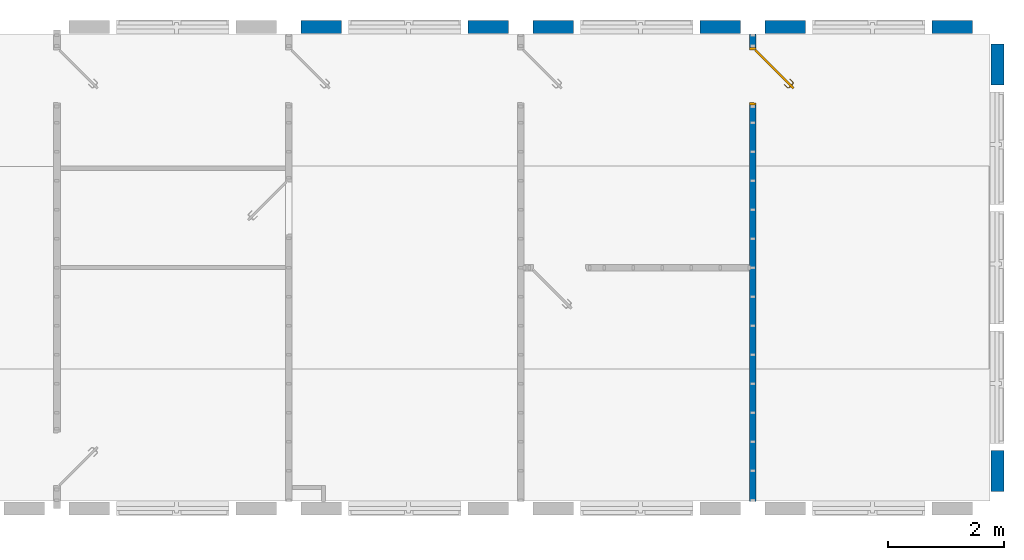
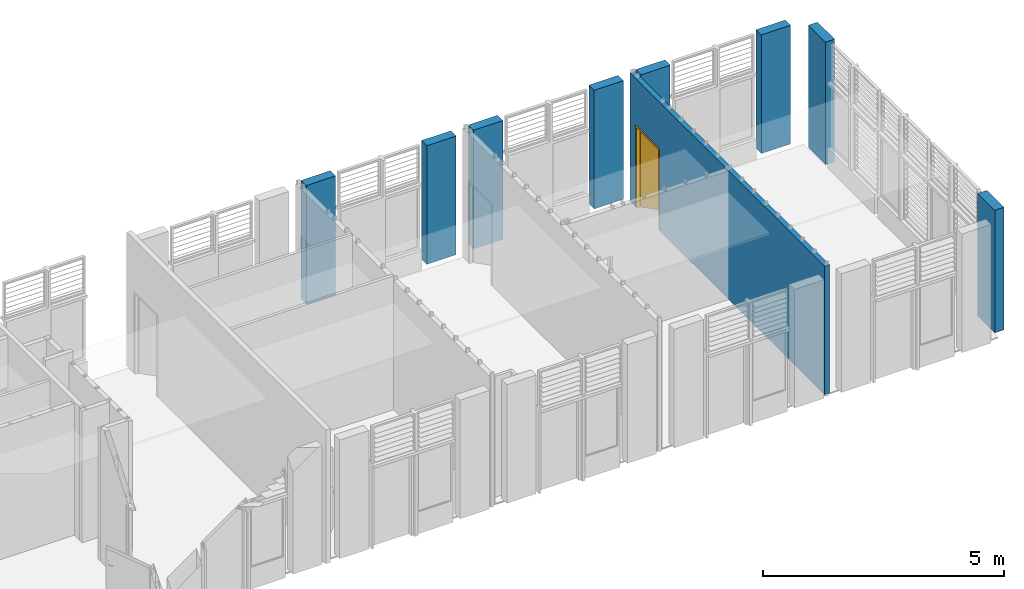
# One storey, part 13 of 20: 9 walls, 1 door, 1 opening.
"""IFC2X3 building model written with IfcOpenShell, lengths in metres."""

from ifc_helpers import new_model, entity, si_unit, converted_unit, derived_unit, direction, frame, frame_2d, origin, place, context, subcontext, project, spatial, rectangle, extrude, faceted_brep, source, transform, mapped, material, layer, layer_set, layer_usage, type_object, type_shapes, element, fill, save


model = new_model("IFC2X3")

# Units and contexts
model_context = context("Model", 3, precision=1e-05, world=origin(), true_north=direction((6.12303176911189e-17, 1.0)))
body_context = subcontext(model_context, "Body", "Model", "MODEL_VIEW")
ifc_project = project(units=[si_unit("LENGTHUNIT", "METRE"), si_unit("AREAUNIT", "SQUARE_METRE"), si_unit("VOLUMEUNIT", "CUBIC_METRE"), converted_unit("PLANEANGLEUNIT", "DEGREE", entity("IfcRatioMeasure", 0.0174532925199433), si_unit("PLANEANGLEUNIT", "RADIAN"), dimensions=[0, 0, 0, 0, 0, 0, 0]), si_unit("MASSUNIT", "GRAM", prefix="KILO"), derived_unit("MASSDENSITYUNIT", [(si_unit("MASSUNIT", "GRAM", prefix="KILO"), 1), (si_unit("LENGTHUNIT", "METRE"), -3)]), si_unit("TIMEUNIT", "SECOND"), si_unit("FREQUENCYUNIT", "HERTZ"), si_unit("THERMODYNAMICTEMPERATUREUNIT", "DEGREE_CELSIUS"), derived_unit("THERMALTRANSMITTANCEUNIT", [(si_unit("MASSUNIT", "GRAM", prefix="KILO"), 1), (si_unit("THERMODYNAMICTEMPERATUREUNIT", "KELVIN"), -1), (si_unit("TIMEUNIT", "SECOND"), -3)]), derived_unit("VOLUMETRICFLOWRATEUNIT", [(si_unit("LENGTHUNIT", "METRE"), 3), (si_unit("TIMEUNIT", "SECOND"), -1)]), si_unit("ELECTRICCURRENTUNIT", "AMPERE"), si_unit("ELECTRICVOLTAGEUNIT", "VOLT"), si_unit("POWERUNIT", "WATT"), si_unit("FORCEUNIT", "NEWTON", prefix="KILO"), si_unit("ILLUMINANCEUNIT", "LUX"), si_unit("LUMINOUSFLUXUNIT", "LUMEN"), si_unit("LUMINOUSINTENSITYUNIT", "CANDELA"), derived_unit("USERDEFINED", [(si_unit("MASSUNIT", "GRAM", prefix="KILO"), -1), (si_unit("LENGTHUNIT", "METRE"), -2), (si_unit("TIMEUNIT", "SECOND"), 3), (si_unit("LUMINOUSFLUXUNIT", "LUMEN"), 1)]), derived_unit("LINEARVELOCITYUNIT", [(si_unit("LENGTHUNIT", "METRE"), 1), (si_unit("TIMEUNIT", "SECOND"), -1)]), si_unit("PRESSUREUNIT", "PASCAL"), derived_unit("USERDEFINED", [(si_unit("LENGTHUNIT", "METRE"), -2), (si_unit("MASSUNIT", "GRAM", prefix="KILO"), 1), (si_unit("TIMEUNIT", "SECOND"), -2)])], contexts=[model_context])

# Site, building, storey
site_placement = place(None, origin())
site = spatial("IfcSite", under=ifc_project, at=site_placement, Name="Surface", CompositionType="ELEMENT")
building_placement = place(site_placement, origin())
building = spatial("IfcBuilding", under=site, at=building_placement, Name="ExPREF", CompositionType="ELEMENT")
storey_placement = place(building_placement, frame((0.0, 0.0, 4.27)))
storey = spatial("IfcBuildingStorey", under=building, at=storey_placement, Name="R+1", CompositionType="ELEMENT", Elevation=4.27)

# Wall, opening, door
ifc_material_1 = material(Name="AA-mur cloison finition")
ifc_layer_1 = layer(ifc_material_1, 0.018)
ifc_material_2 = material(Name="AA-isolant plancher")
ifc_layer_2 = layer(ifc_material_2, 0.08)
ifc_layer_3 = layer(ifc_material_1, 0.018)
ifc_layer_set_1 = layer_set([ifc_layer_1, ifc_layer_2, ifc_layer_3], Name="Mur de base:A-cloison CP 11.6 cm")
ifc_layer_usage_1 = layer_usage(ifc_layer_set_1, "AXIS2", "NEGATIVE", 0.058)
wall_type_1 = type_object("IfcWallType", Name="Mur de base:A-cloison CP 11.6 cm", PredefinedType="STANDARD", material=ifc_layer_set_1)
wall_1_placement = place(storey_placement, frame((65.4897436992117, -185.17648794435, 0.0), z_axis=(0.0, 0.0, 1.0), x_axis=(0.0, -1.0, 0.0)))
wall_1 = element("IfcWallStandardCase", 1, at=wall_1_placement, inside=storey, type_object=wall_type_1, material=ifc_layer_usage_1, Name="Mur de base:A-cloison CP 11.6 cm", ObjectType="Mur de base:A-cloison CP 11.6 cm", context=body_context, shape_type="SweptSolid", body=[
    extrude(rectangle(XDim=8.06316335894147, YDim=0.116000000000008, at=frame_2d((4.03158167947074, 1.98105420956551e-15), x_axis=(-1.0, 0.0))), origin(), (0.0, 0.0, 1.0), 3.24999999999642),
])
opening_placement = place(wall_1_placement, frame((0.230000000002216, -0.0580000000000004, 0.0)))
opening = element("IfcOpeningElement", 2, at=opening_placement, cuts=wall_1, Name="Porte intérieur bois:PP (0.93m x 2.04m):1", ObjectType="Opening", context=body_context, shape_type="SweptSolid", body=[
    extrude(rectangle(XDim=2.075, YDim=1.0, at=frame_2d((1.0375, 0.5), x_axis=(1.0, 0.0))), frame((0.0, 0.0, 0.0), z_axis=(0.0, 1.0, 0.0), x_axis=(0.0, 0.0, 1.0)), (0.0, 0.0, 1.0), 0.116),
])
ifc_material_3 = material(Name="AA-Blanc satiné")
door_style = type_object("IfcDoorStyle", Name="PP (0.93m x 2.04m)", ConstructionType="NOTDEFINED", OperationType="SINGLE_SWING_LEFT", ParameterTakesPrecedence=False, Sizeable=False, material=ifc_material_3)
shared_shape = source(origin(), body_context, "Body", "Brep", [
    faceted_brep([(0.316565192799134, -0.584795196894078, 1.00778044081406), (0.313754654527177, -0.587605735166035, 1.007), (0.31375465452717, -0.587605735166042, 0.992999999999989), (0.316565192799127, -0.584795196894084, 0.99221955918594), (0.319429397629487, -0.581930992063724, 0.992219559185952), (0.32223993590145, -0.579120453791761, 0.993000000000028), (0.322239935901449, -0.579120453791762, 1.007), (0.319429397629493, -0.581930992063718, 1.00778044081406), (0.306340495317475, -0.563221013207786, 0.993000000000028), (0.306340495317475, -0.563221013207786, 1.007), (0.302365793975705, -0.56486738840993, 1.00778044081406), (0.302365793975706, -0.545331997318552, 1.00778044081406), (0.298315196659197, -0.543654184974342, 1.00778044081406), (0.298315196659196, -0.56654520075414, 1.00778044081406), (0.294340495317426, -0.568191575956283, 1.007), (0.294340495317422, -0.568191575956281, 0.992999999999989), (0.298315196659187, -0.566545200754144, 0.99221955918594), (0.298315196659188, -0.543654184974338, 0.99221955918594), (0.302365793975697, -0.545331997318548, 0.992219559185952), (0.302365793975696, -0.564867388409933, 0.992219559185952), (0.306340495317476, -0.546978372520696, 0.993000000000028), (0.306340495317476, -0.546978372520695, 1.007), (0.294340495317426, -0.542007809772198, 1.007), (0.294340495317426, -0.542007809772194, 0.992999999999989), (0.36471958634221, -0.488599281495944, 0.993000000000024), (0.361909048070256, -0.485788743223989, 0.992219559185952), (0.359044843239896, -0.48292453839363, 0.99221955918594), (0.356234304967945, -0.480114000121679, 0.992999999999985), (0.356234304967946, -0.480114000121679, 1.007), (0.359044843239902, -0.482924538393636, 1.00778044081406), (0.361909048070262, -0.485788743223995, 1.00778044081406), (0.364719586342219, -0.488599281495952, 1.007), (0.335530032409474, -0.517788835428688, 0.993000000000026), (0.335530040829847, -0.517788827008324, 1.007), (0.330705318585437, -0.51412826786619, 1.0078786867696), (0.322575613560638, -0.513772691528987, 1.007), (0.322575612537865, -0.513772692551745, 0.992999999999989), (0.330705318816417, -0.514128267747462, 0.992121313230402)], [[[0, 1, 2, 3, 4, 5, 6, 7]], [[6, 5, 8, 9]], [[9, 10, 7, 6]], [[10, 11, 12, 13, 0, 7]], [[13, 14, 1, 0]], [[2, 1, 14, 15]], [[15, 16, 3, 2]], [[16, 17, 18, 19, 4, 3]], [[19, 8, 5, 4]], [[9, 8, 20, 21]], [[21, 11, 10, 9]], [[12, 22, 14, 13]], [[15, 14, 22, 23]], [[23, 17, 16, 15]], [[18, 20, 8, 19]], [[24, 25, 26, 27, 28, 29, 30, 31]], [[21, 20, 32, 24, 31, 33]], [[33, 30, 34]], [[35, 34, 29]], [[21, 33, 11]], [[33, 31, 30]], [[28, 35, 29]], [[22, 12, 35]], [[35, 12, 34]], [[12, 11, 34]], [[11, 33, 34]], [[29, 34, 30]], [[22, 35, 28, 27, 36, 23]], [[36, 26, 37]], [[27, 26, 36]], [[17, 23, 36]], [[37, 32, 18]], [[20, 18, 32]], [[32, 25, 24]], [[26, 25, 37]], [[25, 32, 37]], [[17, 36, 37]], [[17, 37, 18]]]),
    faceted_brep([(0.351920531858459, -0.620150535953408, 1.00778044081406), (0.354784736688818, -0.617286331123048, 1.00778044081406), (0.357595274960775, -0.614475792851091, 1.00699999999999), (0.357595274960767, -0.614475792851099, 0.993000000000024), (0.354784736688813, -0.617286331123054, 0.992219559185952), (0.351920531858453, -0.620150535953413, 0.99221955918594), (0.349109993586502, -0.622961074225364, 0.992999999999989), (0.349109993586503, -0.622961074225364, 1.007), (0.368662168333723, -0.642513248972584, 1.007), (0.370308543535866, -0.638538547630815, 1.00778044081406), (0.3930050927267, -0.638538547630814, 1.00778044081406), (0.391327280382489, -0.634487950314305, 1.00778044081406), (0.371986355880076, -0.634487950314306, 1.00778044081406), (0.373632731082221, -0.630513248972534, 1.007), (0.373632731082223, -0.630513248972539, 0.993000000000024), (0.371986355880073, -0.634487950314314, 0.992219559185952), (0.391327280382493, -0.634487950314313, 0.992219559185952), (0.393005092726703, -0.638538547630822, 0.99221955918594), (0.370308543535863, -0.638538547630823, 0.99221955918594), (0.368662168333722, -0.642513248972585, 0.992999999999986), (0.394651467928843, -0.642513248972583, 1.007), (0.389680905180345, -0.630513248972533, 1.007), (0.38968090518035, -0.630513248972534, 0.993000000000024), (0.394651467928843, -0.642513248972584, 0.992999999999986), (0.456623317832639, -0.580541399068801, 0.992999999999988), (0.453812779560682, -0.577730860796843, 0.99221955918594), (0.450948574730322, -0.574866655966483, 0.992219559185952), (0.448138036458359, -0.57205611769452, 0.993000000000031), (0.44813803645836, -0.572056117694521, 1.007), (0.450948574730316, -0.574866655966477, 1.00778044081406), (0.453812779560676, -0.577730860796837, 1.00778044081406), (0.456623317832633, -0.580541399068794, 1.00699999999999), (0.422886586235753, -0.614278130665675, 1.007), (0.422570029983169, -0.606109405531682, 1.0078786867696), (0.418909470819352, -0.601284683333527, 1.007), (0.418909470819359, -0.601284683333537, 0.993000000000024), (0.422570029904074, -0.606109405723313, 0.992121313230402), (0.422886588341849, -0.614278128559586, 0.992999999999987)], [[[0, 1, 2, 3, 4, 5, 6, 7]], [[8, 9, 0, 7]], [[9, 10, 11, 12, 1, 0]], [[12, 13, 2, 1]], [[3, 2, 13, 14]], [[14, 15, 4, 3]], [[15, 16, 17, 18, 5, 4]], [[18, 19, 6, 5]], [[7, 6, 19, 8]], [[20, 10, 9, 8]], [[11, 21, 13, 12]], [[14, 13, 21, 22]], [[22, 16, 15, 14]], [[17, 23, 19, 18]], [[8, 19, 23, 20]], [[24, 25, 26, 27, 28, 29, 30, 31]], [[32, 30, 33]], [[31, 30, 32]], [[10, 20, 32]], [[33, 34, 11]], [[21, 11, 34]], [[34, 29, 28]], [[30, 29, 33]], [[29, 34, 33]], [[10, 32, 33]], [[10, 33, 11]], [[22, 21, 34, 28, 27, 35]], [[35, 26, 36]], [[37, 36, 25]], [[22, 35, 16]], [[35, 27, 26]], [[24, 37, 25]], [[23, 17, 37]], [[37, 17, 36]], [[17, 16, 36]], [[16, 35, 36]], [[25, 36, 26]], [[20, 23, 37, 24, 31, 32]]]),
    faceted_brep([(0.328853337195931, -0.579578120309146, 0.866003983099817), (0.335674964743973, -0.572756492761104, 0.870000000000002), (0.335674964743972, -0.572756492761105, 1.08), (0.32885333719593, -0.579578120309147, 1.08399601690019), (0.321532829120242, -0.586898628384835, 1.08535898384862), (0.314212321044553, -0.594219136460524, 1.08399601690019), (0.307390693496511, -0.601040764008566, 1.08), (0.307390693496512, -0.601040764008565, 0.870000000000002), (0.314212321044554, -0.594219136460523, 0.866003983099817), (0.321532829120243, -0.586898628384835, 0.86464101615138), (0.325317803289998, -0.576042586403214, 1.08399601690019), (0.33213943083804, -0.569220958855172, 1.08), (0.332139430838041, -0.569220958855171, 0.870000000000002), (0.325317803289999, -0.576042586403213, 0.866003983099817), (0.31799729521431, -0.583363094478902, 0.86464101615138), (0.310676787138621, -0.59068360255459, 0.866003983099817), (0.303855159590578, -0.597505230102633, 0.870000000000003), (0.303855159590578, -0.597505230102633, 1.08), (0.31067678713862, -0.590683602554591, 1.08399601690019), (0.317997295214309, -0.583363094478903, 1.08535898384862)], [[[0, 1, 2, 3, 4, 5, 6, 7, 8, 9]], [[10, 11, 12, 13, 14, 15, 16, 17, 18, 19]], [[11, 10, 3, 2]], [[3, 10, 19, 4]], [[19, 18, 5, 4]], [[18, 17, 6, 5]], [[7, 6, 17, 16]], [[16, 15, 8, 7]], [[8, 15, 14, 9]], [[14, 13, 0, 9]], [[13, 12, 1, 0]], [[2, 1, 12, 11]]]),
    faceted_brep([(0.360673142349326, -0.61139792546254, 0.866003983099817), (0.367494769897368, -0.604576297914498, 0.870000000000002), (0.367494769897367, -0.604576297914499, 1.08), (0.360673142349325, -0.611397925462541, 1.08399601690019), (0.353352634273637, -0.61871843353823, 1.08535898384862), (0.346032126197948, -0.626038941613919, 1.08399601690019), (0.339210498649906, -0.632860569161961, 1.08), (0.339210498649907, -0.63286056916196, 0.870000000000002), (0.346032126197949, -0.626038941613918, 0.866003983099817), (0.353352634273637, -0.618718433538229, 0.86464101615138), (0.357137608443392, -0.607862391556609, 1.08399601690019), (0.363959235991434, -0.601040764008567, 1.08), (0.363959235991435, -0.601040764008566, 0.870000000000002), (0.357137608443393, -0.607862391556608, 0.866003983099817), (0.349817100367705, -0.615182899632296, 0.86464101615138), (0.342496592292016, -0.622503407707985, 0.866003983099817), (0.335674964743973, -0.629325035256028, 0.870000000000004), (0.335674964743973, -0.629325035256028, 1.08), (0.342496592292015, -0.622503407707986, 1.08399601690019), (0.349817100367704, -0.615182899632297, 1.08535898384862)], [[[0, 1, 2, 3, 4, 5, 6, 7, 8, 9]], [[10, 11, 12, 13, 14, 15, 16, 17, 18, 19]], [[16, 15, 8, 7]], [[8, 15, 14, 9]], [[14, 13, 0, 9]], [[13, 12, 1, 0]], [[2, 1, 12, 11]], [[11, 10, 3, 2]], [[3, 10, 19, 4]], [[19, 18, 5, 4]], [[18, 17, 6, 5]], [[7, 6, 17, 16]]]),
    faceted_brep([(0.279106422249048, -0.629325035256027, 2.04), (0.936715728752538, 0.0282842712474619, 2.04), (0.936715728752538, 0.0282842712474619, 0.0), (0.279106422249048, -0.629325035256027, 0.0), (0.30739069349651, -0.657609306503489, 2.04), (0.30739069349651, -0.657609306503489, 0.0), (0.965, 0.0, 0.0), (0.965, 0.0, 2.04)], [[[0, 1, 2, 3]], [[4, 5, 6, 7]], [[1, 0, 4, 7]], [[2, 1, 7, 6]], [[3, 2, 6, 5]], [[0, 3, 5, 4]]]),
    faceted_brep([(0.0, 0.0, 0.0), (0.0, 0.116000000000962, 0.0), (0.0499999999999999, 0.116000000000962, 0.0), (0.0499999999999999, 0.0400000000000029, 0.0), (0.0349999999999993, 0.0400000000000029, 0.0), (0.0349999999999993, 0.0, 0.0), (0.0, 0.0, 2.07500000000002), (0.0, 0.116000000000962, 2.07500000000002), (1.0, 0.116000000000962, 2.07500000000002), (1.0, 0.116000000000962, 0.0), (0.95, 0.116000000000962, 0.0), (0.95, 0.116000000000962, 2.025), (0.0500000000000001, 0.116000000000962, 2.025), (0.05, 0.0400000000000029, 2.025), (0.95, 0.0400000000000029, 2.025), (0.95, 0.0400000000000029, 0.0), (0.965, 0.0400000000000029, 0.0), (0.965, 0.0400000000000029, 2.04), (0.0349999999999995, 0.0400000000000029, 2.04), (0.0349999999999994, 0.0, 2.04), (0.965, 0.0, 2.04), (0.965, 0.0, 0.0), (1.0, 0.0, 0.0), (1.0, 0.0, 2.07500000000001)], [[[0, 1, 2, 3, 4, 5]], [[1, 0, 6, 7]], [[2, 1, 7, 8, 9, 10, 11, 12]], [[3, 2, 12, 13]], [[4, 3, 13, 14, 15, 16, 17, 18]], [[5, 4, 18, 19]], [[0, 5, 19, 20, 21, 22, 23, 6]], [[8, 23, 22, 9]], [[22, 21, 16, 15, 10, 9]], [[14, 11, 10, 15]], [[20, 17, 16, 21]], [[7, 6, 23, 8]], [[13, 12, 11, 14]], [[19, 18, 17, 20]]]),
])
type_shapes(door_style, [shared_shape])
door_placement = place(opening_placement, frame((1.0, 0.116000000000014, 0.0), z_axis=(0.0, 0.0, 1.0), x_axis=(-1.0, 0.0, 0.0)))
door = element("IfcDoor", 3, at=door_placement, inside=storey, type_object=door_style, material=ifc_material_3, Name="Porte intérieur bois:PP (0.93m x 2.04m)", ObjectType="PP (0.93m x 2.04m)", OverallHeight=2.075, OverallWidth=1.00000000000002, context=body_context, shape_type="MappedRepresentation", body=[
    mapped(shared_shape, transform((0.0, 0.0, 0.0), scale=1.0)),
])
fill(opening, door)

# Walls
ifc_material_4 = material(Name="AA-BTC")
ifc_layer_4 = layer(ifc_material_4, 0.22)
ifc_layer_set_2 = layer_set([ifc_layer_4], Name="Mur de base:A-prémur BTC")
ifc_layer_usage_2 = layer_usage(ifc_layer_set_2, "AXIS2", "POSITIVE", -0.11)
wall_type_2 = type_object("IfcWallType", Name="Mur de base:A-prémur BTC", PredefinedType="STANDARD", material=ifc_layer_set_2)
wall_2_placement = place(storey_placement, frame((57.6997436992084, -185.056487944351, 0.0999999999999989)))
element("IfcWallStandardCase", 4, at=wall_2_placement, inside=storey, type_object=wall_type_2, material=ifc_layer_usage_2, Name="Mur de base:A-prémur BTC", ObjectType="Mur de base:A-prémur BTC", context=body_context, shape_type="SweptSolid", body=[
    extrude(rectangle(XDim=0.699999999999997, YDim=0.220000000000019, at=frame_2d((0.349999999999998, 6.7237881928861e-15), x_axis=(-1.0, 0.0))), origin(), (0.0, 0.0, 1.0), 3.0),
])
ifc_layer_usage_3 = layer_usage(ifc_layer_set_2, "AXIS2", "NEGATIVE", 0.11)
wall_3_placement = place(storey_placement, frame((61.2797436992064, -185.056487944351, 0.0999999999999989), z_axis=(0.0, 0.0, 1.0), x_axis=(-1.0, 0.0, 0.0)))
element("IfcWallStandardCase", 5, at=wall_3_placement, inside=storey, type_object=wall_type_2, material=ifc_layer_usage_3, Name="Mur de base:A-prémur BTC", ObjectType="Mur de base:A-prémur BTC", context=body_context, shape_type="SweptSolid", body=[
    extrude(rectangle(XDim=0.700000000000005, YDim=0.220000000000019, at=frame_2d((0.350000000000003, 6.7237881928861e-15), x_axis=(-1.0, 0.0))), origin(), (0.0, 0.0, 1.0), 3.0),
])
ifc_layer_usage_4 = layer_usage(ifc_layer_set_2, "AXIS2", "POSITIVE", -0.11)
wall_4_placement = place(storey_placement, frame((61.6997436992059, -185.05648794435, 0.0999999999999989)))
element("IfcWallStandardCase", 6, at=wall_4_placement, inside=storey, type_object=wall_type_2, material=ifc_layer_usage_4, Name="Mur de base:A-prémur BTC", ObjectType="Mur de base:A-prémur BTC", context=body_context, shape_type="SweptSolid", body=[
    extrude(rectangle(XDim=0.699999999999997, YDim=0.220000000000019, at=frame_2d((0.349999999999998, 2.34534613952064e-15), x_axis=(-1.0, 0.0))), origin(), (0.0, 0.0, 1.0), 3.0),
])
ifc_layer_usage_5 = layer_usage(ifc_layer_set_2, "AXIS2", "NEGATIVE", 0.11)
wall_5_placement = place(storey_placement, frame((65.2797436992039, -185.05648794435, 0.0999999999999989), z_axis=(0.0, 0.0, 1.0), x_axis=(-1.0, 0.0, 0.0)))
element("IfcWallStandardCase", 7, at=wall_5_placement, inside=storey, type_object=wall_type_2, material=ifc_layer_usage_5, Name="Mur de base:A-prémur BTC", ObjectType="Mur de base:A-prémur BTC", context=body_context, shape_type="SweptSolid", body=[
    extrude(rectangle(XDim=0.700000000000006, YDim=0.220000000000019, at=frame_2d((0.350000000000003, 2.34534613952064e-15), x_axis=(-1.0, 0.0))), origin(), (0.0, 0.0, 1.0), 3.0),
])
ifc_layer_usage_6 = layer_usage(ifc_layer_set_2, "AXIS2", "POSITIVE", -0.11)
wall_6_placement = place(storey_placement, frame((65.6997436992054, -185.056487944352, 0.0999999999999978)))
element("IfcWallStandardCase", 8, at=wall_6_placement, inside=storey, type_object=wall_type_2, material=ifc_layer_usage_6, Name="Mur de base:A-prémur BTC", ObjectType="Mur de base:A-prémur BTC", context=body_context, shape_type="SweptSolid", body=[
    extrude(rectangle(XDim=0.700000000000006, YDim=0.220000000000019, at=frame_2d((0.350000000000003, -6.93889390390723e-16), x_axis=(-1.0, 0.0))), origin(), (0.0, 0.0, 1.0), 3.0),
])
ifc_layer_usage_7 = layer_usage(ifc_layer_set_2, "AXIS2", "NEGATIVE", 0.11)
wall_7_placement = place(storey_placement, frame((69.2797436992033, -185.056487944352, 0.0999999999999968), z_axis=(0.0, 0.0, 1.0), x_axis=(-1.0, 0.0, 0.0)))
element("IfcWallStandardCase", 9, at=wall_7_placement, inside=storey, type_object=wall_type_2, material=ifc_layer_usage_7, Name="Mur de base:A-prémur BTC", ObjectType="Mur de base:A-prémur BTC", context=body_context, shape_type="SweptSolid", body=[
    extrude(rectangle(XDim=0.699999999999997, YDim=0.220000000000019, at=frame_2d((0.349999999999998, -6.93889390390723e-16), x_axis=(-1.0, 0.0))), origin(), (0.0, 0.0, 1.0), 3.0),
])
ifc_layer_usage_8 = layer_usage(ifc_layer_set_2, "AXIS2", "POSITIVE", -0.11)
wall_8_placement = place(storey_placement, frame((69.7097436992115, -185.346487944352, 0.0), z_axis=(0.0, 0.0, 1.0), x_axis=(0.0, -1.0, 0.0)))
element("IfcWallStandardCase", 10, at=wall_8_placement, inside=storey, type_object=wall_type_2, material=ifc_layer_usage_8, Name="Mur de base:A-prémur BTC", ObjectType="Mur de base:A-prémur BTC", context=body_context, shape_type="SweptSolid", body=[
    extrude(rectangle(XDim=0.711581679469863, YDim=0.220000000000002, at=frame_2d((0.355790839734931, -2.89351875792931e-15), x_axis=(-1.0, 0.0))), origin(), (0.0, 0.0, 1.0), 3.1),
])
ifc_layer_usage_9 = layer_usage(ifc_layer_set_2, "AXIS2", "NEGATIVE", 0.11)
wall_9_placement = place(storey_placement, frame((69.7097436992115, -193.069651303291, 0.0), z_axis=(0.0, 0.0, 1.0), x_axis=(0.0, 1.0, 0.0)))
element("IfcWallStandardCase", 11, at=wall_9_placement, inside=storey, type_object=wall_type_2, material=ifc_layer_usage_9, Name="Mur de base:A-prémur BTC", ObjectType="Mur de base:A-prémur BTC", context=body_context, shape_type="SweptSolid", body=[
    extrude(rectangle(XDim=0.71158167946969, YDim=0.220000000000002, at=frame_2d((0.355790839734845, 1.4363510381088e-15), x_axis=(-1.0, 0.0))), origin(), (0.0, 0.0, 1.0), 3.1),
])

save(model, "model.ifc")
